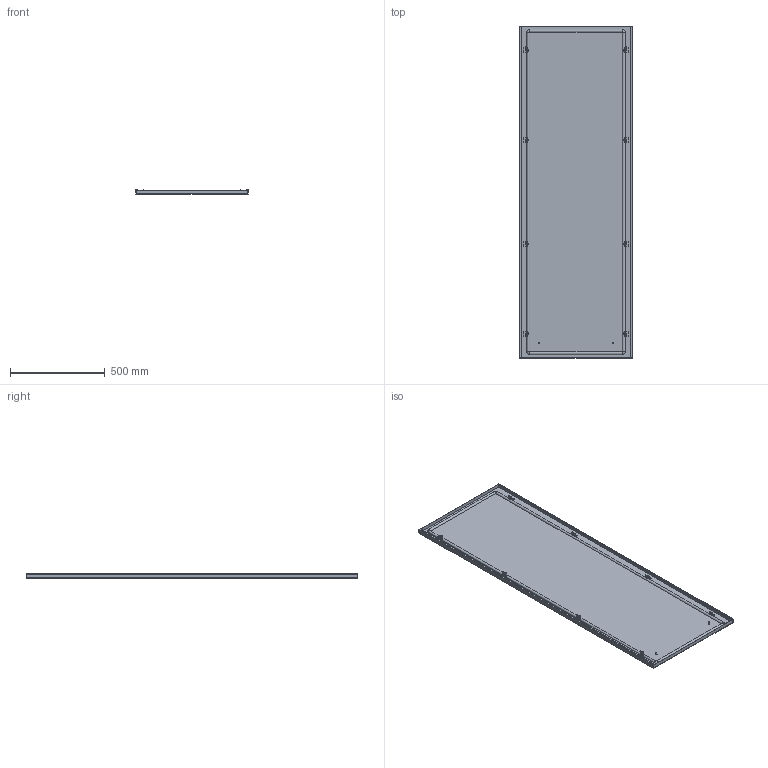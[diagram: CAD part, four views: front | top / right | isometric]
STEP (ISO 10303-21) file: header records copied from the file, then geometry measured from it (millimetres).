
FILE_DESCRIPTION(('Open CASCADE Model'),'2;1');
FILE_NAME('Open CASCADE Shape Model','2025-02-07T16:30:49',('Author'),( 'Open CASCADE'),'Open CASCADE STEP processor 7.8','Open CASCADE 7.8' ,'Unknown');
FILE_SCHEMA(('AUTOMOTIVE_DESIGN { 1 0 10303 214 1 1 1 1 }'));
Length unit declared in the file: millimetre
Products named in the file (10): Compound1; Compound2; Compound3; Solid1; Solid2; Solid3; Solid4; Solid5; Solid6; Solid7
Assembly tree (40 placements, depth 4):
  Compound1
    Compound2
      Compound3
        Solid1
        Solid2  x4
      Solid3
    Solid4  x8
    Solid5  x8
    Solid6  x8
    Solid7  x8
Bounding box: 594 x 1755 x 23.8 mm (x, y, z)
Volume: 2158855.2 mm3; surface area: 2540637.3 mm2
Topology: 38 solids, 38 shells, 1655 faces, 4040 edges, 2460 vertices
Faces by surface type: plane 1043, cone 308, cylinder 268, torus 25, bspline 8, revolution 3
Full cylindrical faces by diameter (mm): 5 x16, 6 x132, 7.5 x4, 8 x16, 10 x8, 11.57 x8
Entity records: 7823 total; most frequent: CARTESIAN_POINT 1513, DIRECTION 1262, ORIENTED_EDGE 1244, EDGE_CURVE 622, AXIS2_PLACEMENT_3D 425, LINE 409, VECTOR 409, VERTEX_POINT 387
